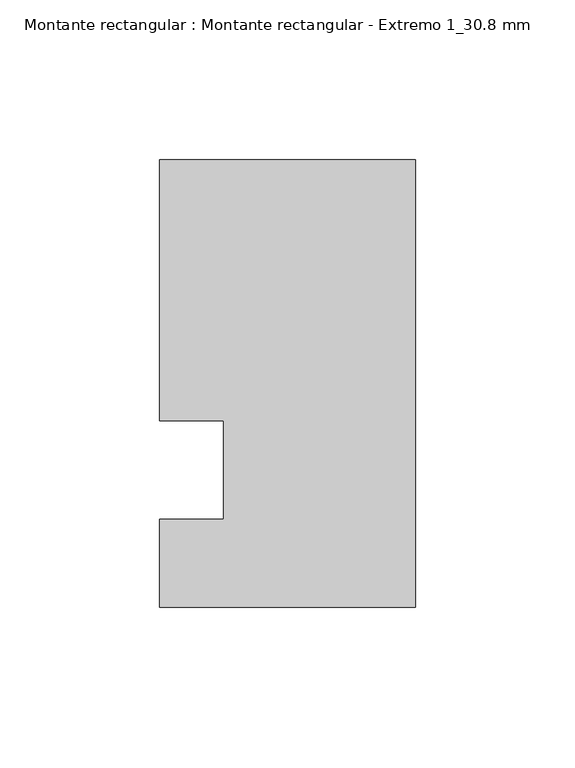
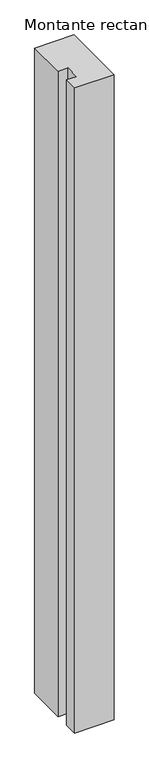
"""IFC4 building model written with IfcOpenShell, lengths in millimetres: member geometry, Montante rectangular : Montante rectangular - Extremo 1_30.8 mm."""

import ifcopenshell
import ifcopenshell.guid

model = None  # the IFC model being written
_history = None  # IfcOwnerHistory: only IFC2X3 demands one
_inside = {}  # id of a spatial element -> (the spatial element, [elements in it])
_under = {}  # id of a project, library or spatial element -> (it, [spatial elements below it])
_declared = {}  # id of a project -> (the project, [libraries it declares])
_typed = {}  # id of a type object -> (the type object, [elements of that type])
_made_of = {}  # id of a material, layer set ... -> (it, [elements and type objects made of it])


def new_model(schema):
    """Start an empty IFC model of exactly this schema.

    Asked for "IFC4X3", IfcOpenShell would pick the latest addendum, in which some entities
    have other attributes; the version numbers below select the first issue.
    IFC2X3 requires an IfcOwnerHistory on every rooted entity: one is made here for all.
    """
    global model, _history
    if schema == "IFC4X3":
        model = ifcopenshell.file(schema_version=(4, 3, 0, 0))
    else:
        model = ifcopenshell.file(schema=schema)
    _inside.clear()
    _under.clear()
    _declared.clear()
    _typed.clear()
    _made_of.clear()
    _history = None
    if model.schema == "IFC2X3":
        org = make("IfcOrganization", Name="unknown")
        user = make(
            "IfcPersonAndOrganization",
            ThePerson=make("IfcPerson", FamilyName="unknown"),
            TheOrganization=org,
        )
        app = make(
            "IfcApplication",
            ApplicationDeveloper=org,
            Version="unknown",
            ApplicationFullName="unknown",
            ApplicationIdentifier="unknown",
        )
        _history = make(
            "IfcOwnerHistory",
            OwningUser=user,
            OwningApplication=app,
            ChangeAction="ADDED",
            CreationDate=0,
        )
    return model


def make(cls, **values):
    """One entity of the class cls with the attributes given. An attribute that is None is left unset."""
    return model.create_entity(
        cls, **{name: value for name, value in values.items() if value is not None}
    )


def rooted(cls, **values):
    """An entity with a GlobalId (a new one), such as an element, a storey or a relation."""
    return make(cls, GlobalId=ifcopenshell.guid.new(), OwnerHistory=_history, **values)


def si_unit(unit_type, name, prefix=None):
    """IfcSIUnit, for example si_unit("LENGTHUNIT", "METRE", prefix="MILLI")."""
    return make("IfcSIUnit", UnitType=unit_type, Prefix=prefix, Name=name)


def assignment(units):
    """IfcUnitAssignment: the units of a project."""
    return None if units is None else make("IfcUnitAssignment", Units=units)


def point(xyz):
    """IfcCartesianPoint."""
    return None if xyz is None else make("IfcCartesianPoint", Coordinates=xyz)


def direction(xyz):
    """IfcDirection."""
    return None if xyz is None else make("IfcDirection", DirectionRatios=xyz)


def frame(location, z_axis=None, x_axis=None):
    """IfcAxis2Placement3D, a coordinate frame: its origin and axes. An axis left out is left unset."""
    return make(
        "IfcAxis2Placement3D",
        Location=point(location),
        Axis=direction(z_axis),
        RefDirection=direction(x_axis),
    )


def origin():
    """The frame at (0, 0, 0) with its axes left unset."""
    return frame((0.0, 0.0, 0.0))


def place(relative_to, where):
    """IfcLocalPlacement: puts the frame where relative to a parent placement (None: the world)."""
    return make(
        "IfcLocalPlacement", PlacementRelTo=relative_to, RelativePlacement=where
    )


def context(
    kind, dimensions, precision=None, world=None, true_north=None, identifier=None
):
    """IfcGeometricRepresentationContext, for example the 3D "Model" context."""
    return make(
        "IfcGeometricRepresentationContext",
        ContextIdentifier=identifier,
        ContextType=kind,
        CoordinateSpaceDimension=dimensions,
        Precision=precision,
        WorldCoordinateSystem=world,
        TrueNorth=true_north,
    )


def project(units=None, contexts=None):
    """IfcProject with its units and contexts."""
    return rooted(
        "IfcProject",
        Name="project",
        RepresentationContexts=contexts,
        UnitsInContext=assignment(units),
    )


def spatial(cls, under=None, at=None, **own):
    """A site, building, storey or space (cls), placed at a placement, below another one or the project."""
    s = rooted(cls, ObjectPlacement=at, **own)
    if under is not None:
        _under.setdefault(under.id(), (under, []))[1].append(s)
    return s


def polyline(points):
    """IfcPolyline through the points."""
    return make("IfcPolyline", Points=[point(p) for p in points])


def outline(outer, holes=None, kind="AREA"):
    """IfcArbitraryClosedProfileDef: a profile drawn as a closed curve; with holes, ...WithVoids."""
    if holes is None:
        return make("IfcArbitraryClosedProfileDef", ProfileType=kind, OuterCurve=outer)
    return make(
        "IfcArbitraryProfileDefWithVoids",
        ProfileType=kind,
        OuterCurve=outer,
        InnerCurves=holes,
    )


def extrude(swept, where, along, depth):
    """IfcExtrudedAreaSolid: the profile swept, set in the frame where, extruded along a direction by depth."""
    return make(
        "IfcExtrudedAreaSolid",
        SweptArea=swept,
        Position=where,
        ExtrudedDirection=direction(along),
        Depth=depth,
    )


def shape(context_of_items, identifier, shape_type, items):
    """IfcShapeRepresentation: the items that make up one representation, for example the "Body"."""
    return make(
        "IfcShapeRepresentation",
        ContextOfItems=context_of_items,
        RepresentationIdentifier=identifier,
        RepresentationType=shape_type,
        Items=items,
    )


def source(mapping_origin, context_of_items, identifier, shape_type, items):
    """IfcRepresentationMap: a shape defined once, which mapped items show again and again."""
    return make(
        "IfcRepresentationMap",
        MappingOrigin=mapping_origin,
        MappedRepresentation=shape(context_of_items, identifier, shape_type, items),
    )


def transform(
    local_origin,
    x_axis=None,
    y_axis=None,
    z_axis=None,
    scale=None,
    scale2=None,
    scale3=None,
    uniform=True,
):
    """IfcCartesianTransformationOperator3D, or its non-uniform kind. x_axis, y_axis, z_axis: its Axis1, 2, 3."""
    if uniform:
        return make(
            "IfcCartesianTransformationOperator3D",
            Axis1=direction(x_axis),
            Axis2=direction(y_axis),
            LocalOrigin=point(local_origin),
            Scale=scale,
            Axis3=direction(z_axis),
        )
    return make(
        "IfcCartesianTransformationOperator3DnonUniform",
        Axis1=direction(x_axis),
        Axis2=direction(y_axis),
        LocalOrigin=point(local_origin),
        Scale=scale,
        Axis3=direction(z_axis),
        Scale2=scale2,
        Scale3=scale3,
    )


def mapped(mapping_source, mapping_target):
    """IfcMappedItem: shows the shape of a source again, moved by a transform."""
    return make(
        "IfcMappedItem", MappingSource=mapping_source, MappingTarget=mapping_target
    )


def made_of(thing, what):
    """Note that an element or type object is made of a material, layer set ...; save() writes the relation."""
    if what is not None:
        _made_of.setdefault(what.id(), (what, []))[1].append(thing)
    return thing


def element(
    cls,
    number,
    at=None,
    inside=None,
    cuts=None,
    type_object=None,
    material=None,
    context=None,
    identifier="Body",
    shape_type=None,
    held_by="IfcProductDefinitionShape",
    body=None,
    shapes=None,
    **own,
):
    """One element of the class cls, such as IfcWall. Its Tag is "e" and its number.

    at: its placement. inside: the storey or other place that contains it. cuts: it is an
    opening in that element (IfcRelVoidsElement). A single representation is given by context,
    identifier, shape_type and body (its items); several are given by shapes. held_by: the class
    of the entity that holds the representations. save() writes the other relations.
    """
    e = rooted(cls, Tag="e%d" % number, ObjectPlacement=at, **own)
    if body is not None:
        shapes = [shape(context, identifier, shape_type, body)]
    if shapes is not None:
        e.Representation = make(held_by, Representations=shapes)
    if inside is not None:
        _inside.setdefault(inside.id(), (inside, []))[1].append(e)
    if cuts is not None:
        rooted(
            "IfcRelVoidsElement", RelatingBuildingElement=cuts, RelatedOpeningElement=e
        )
    if type_object is not None:
        _typed.setdefault(type_object.id(), (type_object, []))[1].append(e)
    return made_of(e, material)


def aggregate(whole, parts):
    """IfcRelAggregates: a whole, such as a stair, and the parts it consists of."""
    return rooted("IfcRelAggregates", RelatingObject=whole, RelatedObjects=parts)


def save(model, path):
    """Write the relations noted so far, then the file.

    IfcRelAggregates (storeys below a building ...), IfcRelContainedInSpatialStructure (elements
    in a storey), IfcRelDefinesByType, IfcRelAssociatesMaterial and IfcRelDeclares: one each for
    every whole, place, type object, material and project.
    """
    for whole, parts in _under.values():
        aggregate(whole, parts)
    for where, things in _inside.values():
        rooted(
            "IfcRelContainedInSpatialStructure",
            RelatedElements=things,
            RelatingStructure=where,
        )
    for kind, things in _typed.values():
        rooted("IfcRelDefinesByType", RelatedObjects=things, RelatingType=kind)
    for what, things in _made_of.values():
        rooted("IfcRelAssociatesMaterial", RelatedObjects=things, RelatingMaterial=what)
    for by, libraries in _declared.values():
        rooted("IfcRelDeclares", RelatingContext=by, RelatedDefinitions=libraries)
    model.write(path)


def montante_rectangular_montante_rectangular_extremo_1_30_8_mm_62ab01bd(model_context):
    return source(origin(), model_context, "Body", "SweptSolid", [
        extrude(outline(polyline([(0.0, 80.0), (0.0, -60.0), (-80.0, -60.0), (-80.0, -32.4), (-60.0, -32.4), (-60.0, -1.6), (-80.0, -1.6), (-80.0, 80.0), (0.0, 80.0)])), frame((0.0, 0.0, -1380.0), z_axis=(0.0, 0.0, 1.0), x_axis=(1.0, 0.0, 0.0)), (0.0, 0.0, 1.0), 1380.0),
    ])


if __name__ == "__main__":
    model = new_model("IFC4")
    model_context = context("Model", 3, world=origin())
    ifc_project = project(units=[si_unit("LENGTHUNIT", "METRE", prefix="MILLI")], contexts=[model_context])
    site = spatial("IfcSite", under=ifc_project)
    building = spatial("IfcBuilding", under=site)
    placement = place(None, origin())
    montante_rectangular_montante_rectangular_extremo_1_30_8_mm_shape = montante_rectangular_montante_rectangular_extremo_1_30_8_mm_62ab01bd(model_context)
    element("IfcMember", 1, ObjectType="Montante rectangular : Montante rectangular - Extremo 1_30.8 mm", at=placement, inside=building, context=model_context, shape_type="MappedRepresentation", body=[
        mapped(montante_rectangular_montante_rectangular_extremo_1_30_8_mm_shape, transform((0.0, 0.0, 0.0), x_axis=(1.0, 0.0, 0.0), y_axis=(0.0, 1.0, 0.0), z_axis=(0.0, 0.0, 1.0))),
    ])
    save(model, "model.ifc")
